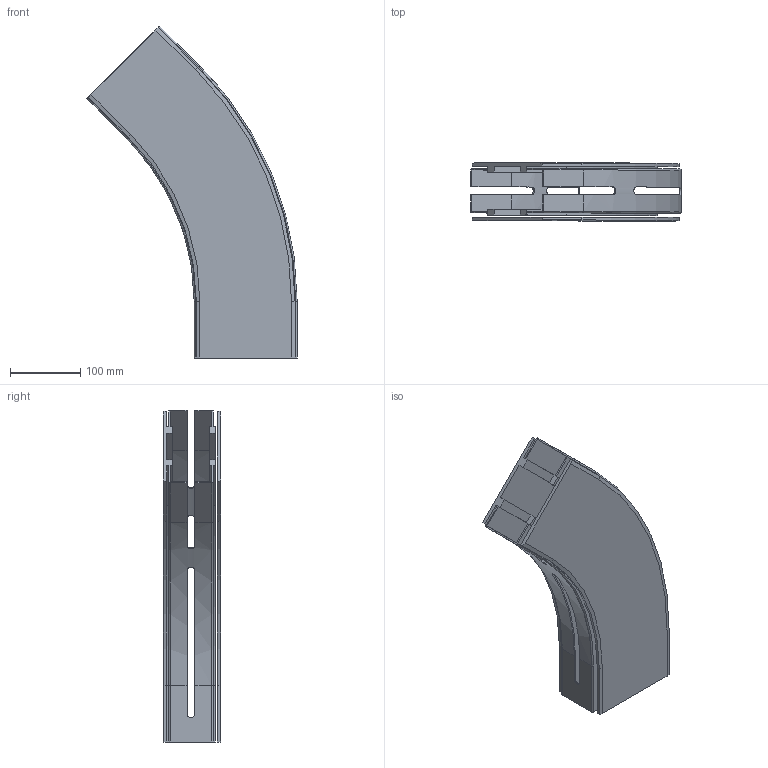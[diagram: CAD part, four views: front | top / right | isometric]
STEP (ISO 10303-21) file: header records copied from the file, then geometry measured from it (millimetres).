
FILE_DESCRIPTION((''),'2;1');
FILE_NAME('C:\Vault Klient\Projekt\Koncept konstruktion\Serie 540 Balk\540-5250.stp','2010-11-24T14:40:58',('Mathias'),(''),'Autodesk Inventor 2011','Autodesk Inventor 2011','');
FILE_SCHEMA(('AUTOMOTIVE_DESIGN { 1 0 10303 214 1 1 1 1 }'));
Length unit declared in the file: millimetre
Products named in the file (1): 540-5250
Bounding box: 298.34 x 82 x 471.03 mm (x, y, z)
Volume: 1070421.2 mm3; surface area: 553169.5 mm2
Topology: 2 solids, 2 shells, 163 faces, 458 edges, 300 vertices
Faces by surface type: plane 107, cylinder 28, bspline 18, cone 6, torus 4
Entity records: 5598 total; most frequent: CARTESIAN_POINT 1344, ORIENTED_EDGE 916, DIRECTION 798, EDGE_CURVE 458, VECTOR 338, LINE 338, VERTEX_POINT 300, AXIS2_PLACEMENT_3D 230
